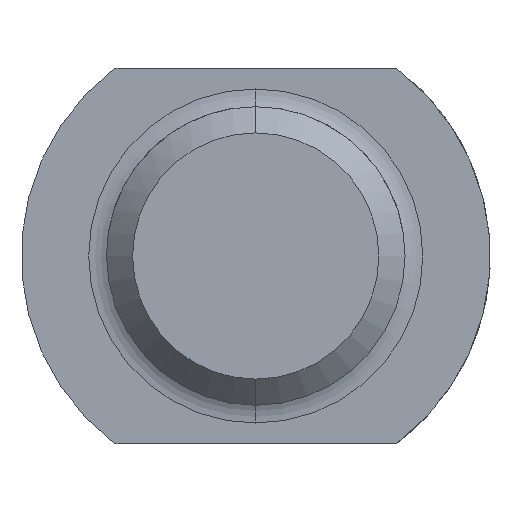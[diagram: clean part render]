
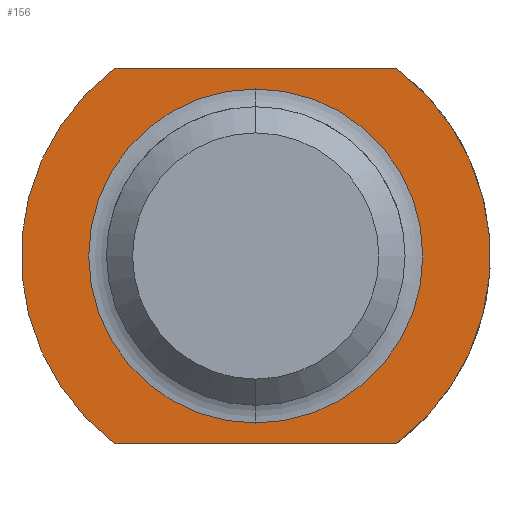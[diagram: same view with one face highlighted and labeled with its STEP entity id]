
A CAD part, left-side view. The second image highlights one B-rep face of the part: STEP entity #156.
In plain terms, the highlighted planar face has unit normal (-1, 0, 0).
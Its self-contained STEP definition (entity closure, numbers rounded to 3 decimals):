
#57=CARTESIAN_POINT('Line Origine',(0.,0.,-8.8)) ;
#61=CARTESIAN_POINT('Vertex',(0.,-6.6,-8.8)) ;
#63=CARTESIAN_POINT('Vertex',(0.,6.6,-8.8)) ;
#92=CARTESIAN_POINT('Axis2P3D Location',(0.,7.833,0.)) ;
#97=CARTESIAN_POINT('Axis2P3D Location',(0.,0.,0.)) ;
#101=CARTESIAN_POINT('Vertex',(0.,6.6,8.8)) ;
#104=CARTESIAN_POINT('Axis2P3D Location',(0.,0.,0.)) ;
#108=CARTESIAN_POINT('Vertex',(0.,-6.6,8.8)) ;
#111=CARTESIAN_POINT('Line Origine',(0.,0.,8.8)) ;
#122=CARTESIAN_POINT('Axis2P3D Location',(0.,0.,0.)) ;
#126=CARTESIAN_POINT('Vertex',(0.,7.833,0.)) ;
#128=CARTESIAN_POINT('Vertex',(0.,0.,7.833)) ;
#131=CARTESIAN_POINT('Axis2P3D Location',(0.,0.,0.)) ;
#135=CARTESIAN_POINT('Vertex',(0.,-7.833,0.)) ;
#138=CARTESIAN_POINT('Axis2P3D Location',(0.,0.,0.)) ;
#142=CARTESIAN_POINT('Vertex',(0.,0.,-7.833)) ;
#145=CARTESIAN_POINT('Axis2P3D Location',(0.,0.,0.)) ;
#58=DIRECTION('Vector Direction',(0.,1.,0.)) ;
#93=DIRECTION('Axis2P3D Direction',(1.,0.,-0.)) ;
#94=DIRECTION('Axis2P3D XDirection',(-0.,0.,-1.)) ;
#98=DIRECTION('Axis2P3D Direction',(1.,0.,-0.)) ;
#105=DIRECTION('Axis2P3D Direction',(1.,0.,-0.)) ;
#112=DIRECTION('Vector Direction',(0.,-1.,0.)) ;
#123=DIRECTION('Axis2P3D Direction',(1.,0.,-0.)) ;
#132=DIRECTION('Axis2P3D Direction',(1.,0.,-0.)) ;
#139=DIRECTION('Axis2P3D Direction',(1.,0.,-0.)) ;
#146=DIRECTION('Axis2P3D Direction',(1.,0.,-0.)) ;
#95=AXIS2_PLACEMENT_3D('Plane Axis2P3D',#92,#93,#94) ;
#99=AXIS2_PLACEMENT_3D('Circle Axis2P3D',#97,#98,$) ;
#106=AXIS2_PLACEMENT_3D('Circle Axis2P3D',#104,#105,$) ;
#124=AXIS2_PLACEMENT_3D('Circle Axis2P3D',#122,#123,$) ;
#133=AXIS2_PLACEMENT_3D('Circle Axis2P3D',#131,#132,$) ;
#140=AXIS2_PLACEMENT_3D('Circle Axis2P3D',#138,#139,$) ;
#147=AXIS2_PLACEMENT_3D('Circle Axis2P3D',#145,#146,$) ;
#117=ORIENTED_EDGE('',*,*,#103,.F.) ;
#118=ORIENTED_EDGE('',*,*,#65,.F.) ;
#119=ORIENTED_EDGE('',*,*,#110,.F.) ;
#120=ORIENTED_EDGE('',*,*,#115,.F.) ;
#151=ORIENTED_EDGE('',*,*,#130,.T.) ;
#152=ORIENTED_EDGE('',*,*,#137,.T.) ;
#153=ORIENTED_EDGE('',*,*,#144,.T.) ;
#154=ORIENTED_EDGE('',*,*,#149,.T.) ;
#155=FACE_BOUND('',#150,.T.) ;
#59=VECTOR('Line Direction',#58,1.) ;
#113=VECTOR('Line Direction',#112,1.) ;
#156=ADVANCED_FACE('AGS3301M14',(#121,#155),#96,.F.) ;
#100=CIRCLE('generated circle',#99,11.) ;
#107=CIRCLE('generated circle',#106,11.) ;
#125=CIRCLE('generated circle',#124,7.833) ;
#134=CIRCLE('generated circle',#133,7.833) ;
#141=CIRCLE('generated circle',#140,7.833) ;
#148=CIRCLE('generated circle',#147,7.833) ;
#65=EDGE_CURVE('',#62,#64,#60,.T.) ;
#103=EDGE_CURVE('',#64,#102,#100,.T.) ;
#110=EDGE_CURVE('',#109,#62,#107,.T.) ;
#115=EDGE_CURVE('',#102,#109,#114,.T.) ;
#130=EDGE_CURVE('',#127,#129,#125,.T.) ;
#137=EDGE_CURVE('',#129,#136,#134,.T.) ;
#144=EDGE_CURVE('',#136,#143,#141,.T.) ;
#149=EDGE_CURVE('',#143,#127,#148,.T.) ;
#116=EDGE_LOOP('',(#117,#118,#119,#120)) ;
#150=EDGE_LOOP('',(#151,#152,#153,#154)) ;
#121=FACE_OUTER_BOUND('',#116,.T.) ;
#60=LINE('Line',#57,#59) ;
#114=LINE('Line',#111,#113) ;
#96=PLANE('Plane',#95) ;
#62=VERTEX_POINT('',#61) ;
#64=VERTEX_POINT('',#63) ;
#102=VERTEX_POINT('',#101) ;
#109=VERTEX_POINT('',#108) ;
#127=VERTEX_POINT('',#126) ;
#129=VERTEX_POINT('',#128) ;
#136=VERTEX_POINT('',#135) ;
#143=VERTEX_POINT('',#142) ;
